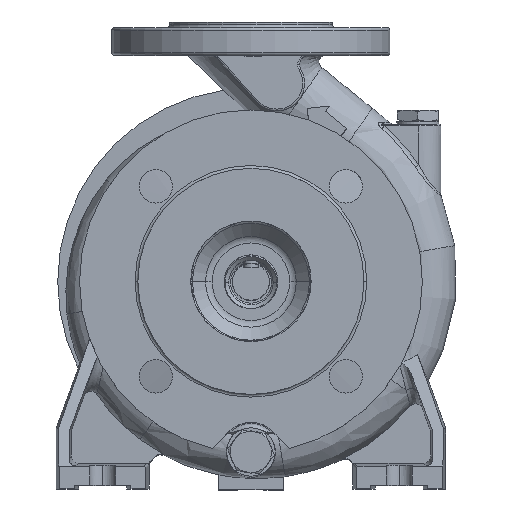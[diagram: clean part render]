
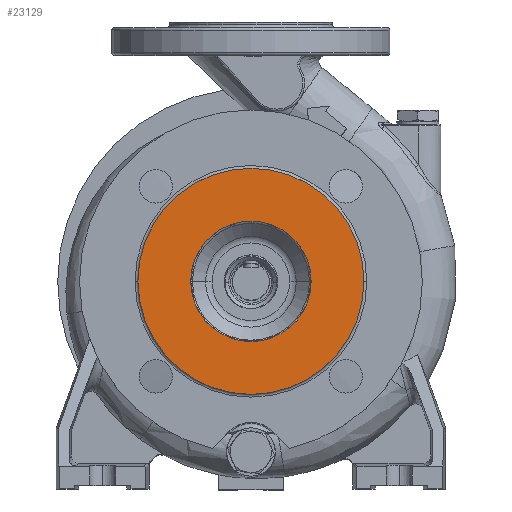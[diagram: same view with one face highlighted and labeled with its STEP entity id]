
A CAD part, top view. The second image highlights one B-rep face of the part: STEP entity #23129.
In plain terms, the highlighted planar face has unit normal (0, 0, 1).
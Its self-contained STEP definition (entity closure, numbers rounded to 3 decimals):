
#600 = DIRECTION ( 'NONE',  ( 0., 0., -1. ) ) ;
#975 = DIRECTION ( 'NONE',  ( 1., 0., 0. ) ) ;
#2228 = EDGE_LOOP ( 'NONE', ( #37348, #16964 ) ) ;
#3414 = AXIS2_PLACEMENT_3D ( 'NONE', #40711, #13713, #975 ) ;
#3743 = VERTEX_POINT ( 'NONE', #24625 ) ;
#4636 = CARTESIAN_POINT ( 'NONE',  ( 0., 28.891, 80. ) ) ;
#7251 = AXIS2_PLACEMENT_3D ( 'NONE', #13007, #36332, #30099 ) ;
#7544 = ORIENTED_EDGE ( 'NONE', *, *, #9325, .T. ) ;
#8219 = CIRCLE ( 'NONE', #3414, 32.5 ) ;
#9325 = EDGE_CURVE ( 'NONE', #31918, #12016, #34216, .T. ) ;
#11940 = PLANE ( 'NONE',  #35014 ) ;
#12011 = CARTESIAN_POINT ( 'NONE',  ( 0., 0., 80. ) ) ;
#12016 = VERTEX_POINT ( 'NONE', #28808 ) ;
#13007 = CARTESIAN_POINT ( 'NONE',  ( 0., 0., 80. ) ) ;
#13713 = DIRECTION ( 'NONE',  ( 0., 0., -1. ) ) ;
#14213 = AXIS2_PLACEMENT_3D ( 'NONE', #12011, #31916, #15890 ) ;
#14989 = DIRECTION ( 'NONE',  ( 1., 0., 0. ) ) ;
#15890 = DIRECTION ( 'NONE',  ( 1., 0., 0. ) ) ;
#16964 = ORIENTED_EDGE ( 'NONE', *, *, #35336, .T. ) ;
#17205 = CARTESIAN_POINT ( 'NONE',  ( 0., 0., 80. ) ) ;
#17996 = FACE_OUTER_BOUND ( 'NONE', #32797, .T. ) ;
#20221 = EDGE_CURVE ( 'NONE', #12016, #31918, #37599, .T. ) ;
#23129 = ADVANCED_FACE ( 'NONE', ( #24922, #17996 ), #11940, .T. ) ;
#23891 = CARTESIAN_POINT ( 'NONE',  ( 32.5, 0., 80. ) ) ;
#24625 = CARTESIAN_POINT ( 'NONE',  ( -32.5, 0., 80. ) ) ;
#24922 = FACE_BOUND ( 'NONE', #2228, .T. ) ;
#25132 = DIRECTION ( 'NONE',  ( 0., 0., 1. ) ) ;
#25868 = EDGE_CURVE ( 'NONE', #3743, #33187, #33542, .T. ) ;
#28808 = CARTESIAN_POINT ( 'NONE',  ( 61., 0., 80. ) ) ;
#30099 = DIRECTION ( 'NONE',  ( 1., 0., 0. ) ) ;
#31916 = DIRECTION ( 'NONE',  ( 0., 0., 1. ) ) ;
#31918 = VERTEX_POINT ( 'NONE', #32355 ) ;
#32355 = CARTESIAN_POINT ( 'NONE',  ( -61., 0., 80. ) ) ;
#32797 = EDGE_LOOP ( 'NONE', ( #37387, #7544 ) ) ;
#33187 = VERTEX_POINT ( 'NONE', #23891 ) ;
#33542 = CIRCLE ( 'NONE', #39083, 32.5 ) ;
#34216 = CIRCLE ( 'NONE', #14213, 61. ) ;
#35014 = AXIS2_PLACEMENT_3D ( 'NONE', #4636, #25132, #38321 ) ;
#35336 = EDGE_CURVE ( 'NONE', #33187, #3743, #8219, .T. ) ;
#36332 = DIRECTION ( 'NONE',  ( 0., 0., 1. ) ) ;
#37348 = ORIENTED_EDGE ( 'NONE', *, *, #25868, .T. ) ;
#37387 = ORIENTED_EDGE ( 'NONE', *, *, #20221, .T. ) ;
#37599 = CIRCLE ( 'NONE', #7251, 61. ) ;
#38321 = DIRECTION ( 'NONE',  ( 1., 0., 0. ) ) ;
#39083 = AXIS2_PLACEMENT_3D ( 'NONE', #17205, #600, #14989 ) ;
#40711 = CARTESIAN_POINT ( 'NONE',  ( 0., 0., 80. ) ) ;
